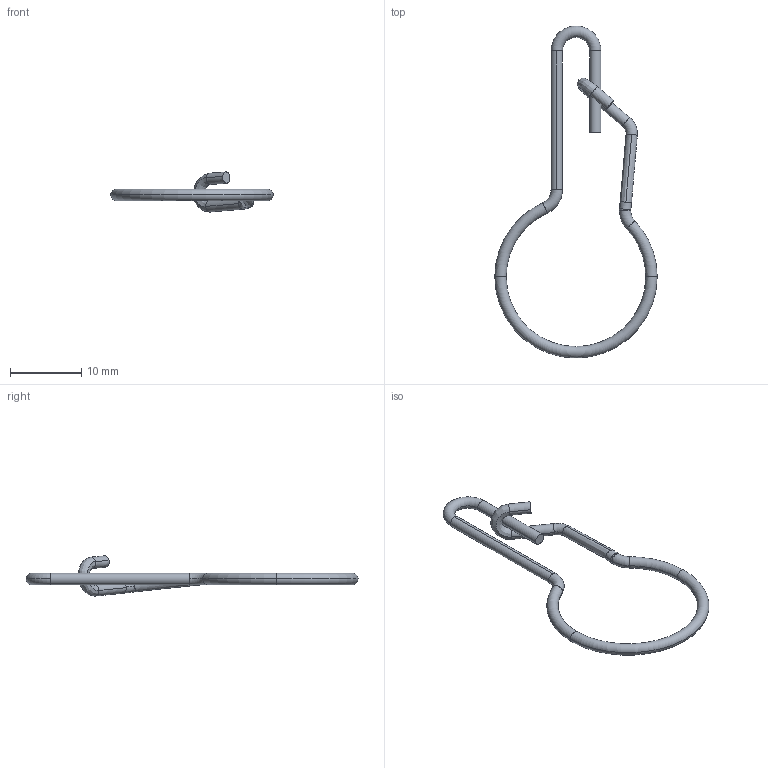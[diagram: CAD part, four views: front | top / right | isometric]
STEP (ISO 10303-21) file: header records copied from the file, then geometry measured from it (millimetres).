
FILE_DESCRIPTION (( 'STEP AP214' ), '1' );
FILE_NAME ('111.6-23-S.step', '2018-08-06T06:41:58', ( 'user' ), ( '' ), 'SwSTEP 2.0', 'SolidWorks 2017', '' );
FILE_SCHEMA (( 'AUTOMOTIVE_DESIGN' ));
Length unit declared in the file: millimetre
Products named in the file (1): 111.6-23-S
Bounding box: 22.8 x 46.62 x 5.65 mm (x, y, z)
Volume: 254.1 mm3; surface area: 639 mm2
Topology: 1 solids, 1 shells, 32 faces, 74 edges, 44 vertices
Faces by surface type: torus 16, cylinder 8, bspline 6, plane 2
Entity records: 1316 total; most frequent: CARTESIAN_POINT 541, DIRECTION 178, ORIENTED_EDGE 148, AXIS2_PLACEMENT_3D 85, EDGE_CURVE 74, CIRCLE 58, VERTEX_POINT 44, EDGE_LOOP 34
